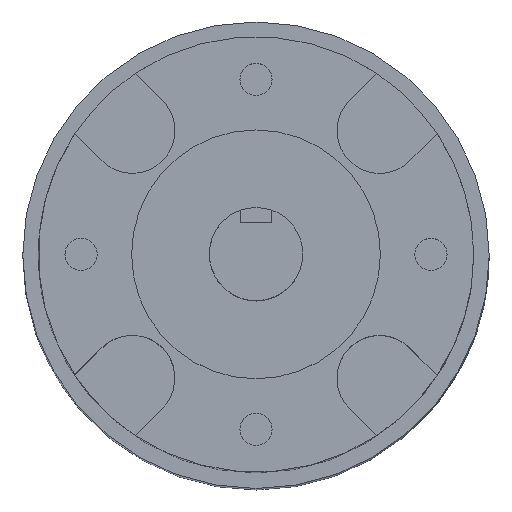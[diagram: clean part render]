
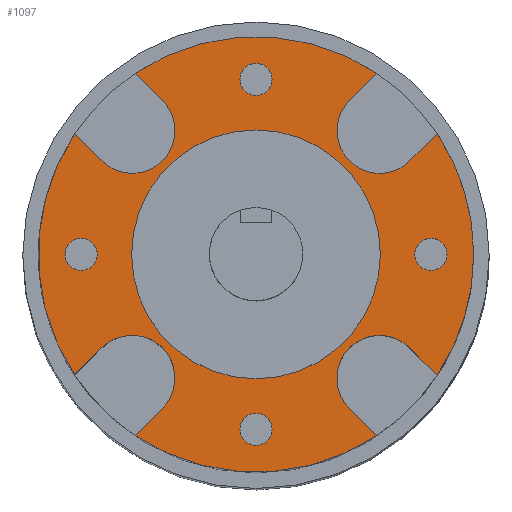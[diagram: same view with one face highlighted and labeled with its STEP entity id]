
A CAD part, top view. The second image highlights one B-rep face of the part: STEP entity #1097.
In plain terms, the highlighted planar face has unit normal (0, 0, 1).
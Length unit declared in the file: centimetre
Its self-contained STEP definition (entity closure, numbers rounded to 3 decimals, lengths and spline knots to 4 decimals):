
#281=VERTEX_POINT('',#5565);
#282=VERTEX_POINT('',#5567);
#284=VERTEX_POINT('',#5572);
#285=VERTEX_POINT('',#5577);
#289=VERTEX_POINT('',#5588);
#290=VERTEX_POINT('',#5590);
#292=VERTEX_POINT('',#5595);
#293=VERTEX_POINT('',#5600);
#297=VERTEX_POINT('',#5611);
#298=VERTEX_POINT('',#5613);
#300=VERTEX_POINT('',#5618);
#301=VERTEX_POINT('',#5623);
#305=VERTEX_POINT('',#5634);
#306=VERTEX_POINT('',#5636);
#308=VERTEX_POINT('',#5641);
#309=VERTEX_POINT('',#5646);
#311=VERTEX_POINT('',#5655);
#312=VERTEX_POINT('',#5657);
#313=VERTEX_POINT('',#5659);
#314=VERTEX_POINT('',#5661);
#315=VERTEX_POINT('',#5663);
#396=EDGE_CURVE('',#282,#281,#1878,.T.);
#400=EDGE_CURVE('',#284,#282,#1376,.T.);
#402=EDGE_CURVE('',#281,#285,#1378,.T.);
#407=EDGE_CURVE('',#290,#289,#1881,.T.);
#411=EDGE_CURVE('',#292,#290,#1384,.T.);
#413=EDGE_CURVE('',#289,#293,#1386,.T.);
#418=EDGE_CURVE('',#298,#297,#1884,.T.);
#422=EDGE_CURVE('',#300,#298,#1392,.T.);
#424=EDGE_CURVE('',#297,#301,#1394,.T.);
#429=EDGE_CURVE('',#306,#305,#1887,.T.);
#433=EDGE_CURVE('',#308,#306,#1400,.T.);
#435=EDGE_CURVE('',#305,#309,#1402,.T.);
#438=EDGE_CURVE('',#300,#285,#1889,.T.);
#439=EDGE_CURVE('',#292,#301,#1889,.T.);
#440=EDGE_CURVE('',#308,#293,#1889,.T.);
#441=EDGE_CURVE('',#284,#309,#1889,.T.);
#442=EDGE_CURVE('',#311,#311,#1890,.T.);
#443=EDGE_CURVE('',#312,#312,#1891,.T.);
#444=EDGE_CURVE('',#313,#313,#1892,.T.);
#445=EDGE_CURVE('',#314,#314,#1893,.T.);
#446=EDGE_CURVE('',#315,#315,#1894,.T.);
#619=ORIENTED_EDGE('',*,*,#400,.T.);
#620=ORIENTED_EDGE('',*,*,#396,.T.);
#621=ORIENTED_EDGE('',*,*,#402,.T.);
#622=ORIENTED_EDGE('',*,*,#438,.F.);
#623=ORIENTED_EDGE('',*,*,#422,.T.);
#624=ORIENTED_EDGE('',*,*,#418,.T.);
#625=ORIENTED_EDGE('',*,*,#424,.T.);
#626=ORIENTED_EDGE('',*,*,#439,.F.);
#627=ORIENTED_EDGE('',*,*,#411,.T.);
#628=ORIENTED_EDGE('',*,*,#407,.T.);
#629=ORIENTED_EDGE('',*,*,#413,.T.);
#630=ORIENTED_EDGE('',*,*,#440,.F.);
#631=ORIENTED_EDGE('',*,*,#433,.T.);
#632=ORIENTED_EDGE('',*,*,#429,.T.);
#633=ORIENTED_EDGE('',*,*,#435,.T.);
#634=ORIENTED_EDGE('',*,*,#441,.F.);
#635=ORIENTED_EDGE('',*,*,#442,.T.);
#636=ORIENTED_EDGE('',*,*,#443,.T.);
#637=ORIENTED_EDGE('',*,*,#444,.T.);
#638=ORIENTED_EDGE('',*,*,#445,.T.);
#639=ORIENTED_EDGE('',*,*,#446,.T.);
#893=EDGE_LOOP('',(#619,#620,#621,#622,#623,#624,#625,#626,#627,#628,#629,
#630,#631,#632,#633,#634));
#894=EDGE_LOOP('',(#635));
#895=EDGE_LOOP('',(#636));
#896=EDGE_LOOP('',(#637));
#897=EDGE_LOOP('',(#638));
#898=EDGE_LOOP('',(#639));
#995=FACE_BOUND('',#893,.T.);
#996=FACE_BOUND('',#894,.T.);
#997=FACE_BOUND('',#895,.T.);
#998=FACE_BOUND('',#896,.T.);
#999=FACE_BOUND('',#897,.T.);
#1000=FACE_BOUND('',#898,.T.);
#1097=ADVANCED_FACE('',(#995,#996,#997,#998,#999,#1000),#4196,.T.);
#1376=LINE('',#5574,#4074);
#1378=LINE('',#5579,#4076);
#1384=LINE('',#5597,#4082);
#1386=LINE('',#5602,#4084);
#1392=LINE('',#5620,#4090);
#1394=LINE('',#5625,#4092);
#1400=LINE('',#5643,#4098);
#1402=LINE('',#5648,#4100);
#1878=CIRCLE('',#3768,0.55);
#1881=CIRCLE('',#3775,0.55);
#1884=CIRCLE('',#3782,0.55);
#1887=CIRCLE('',#3789,0.55);
#1889=CIRCLE('',#3795,2.8);
#1890=CIRCLE('',#3796,1.6);
#1891=CIRCLE('',#3797,0.2067);
#1892=CIRCLE('',#3798,0.2067);
#1893=CIRCLE('',#3799,0.2067);
#1894=CIRCLE('',#3800,0.2067);
#3768=AXIS2_PLACEMENT_3D('',#5566,#4598,#4599);
#3775=AXIS2_PLACEMENT_3D('',#5589,#4617,#4618);
#3782=AXIS2_PLACEMENT_3D('',#5612,#4636,#4637);
#3789=AXIS2_PLACEMENT_3D('',#5635,#4655,#4656);
#3794=AXIS2_PLACEMENT_3D('',#5652,#4669,$);
#3795=AXIS2_PLACEMENT_3D('',#5653,#4670,#4671);
#3796=AXIS2_PLACEMENT_3D('',#5654,#4672,#4673);
#3797=AXIS2_PLACEMENT_3D('',#5656,#4674,#4675);
#3798=AXIS2_PLACEMENT_3D('',#5658,#4676,#4677);
#3799=AXIS2_PLACEMENT_3D('',#5660,#4678,#4679);
#3800=AXIS2_PLACEMENT_3D('',#5662,#4680,#4681);
#4074=VECTOR('',#4604,1.);
#4076=VECTOR('',#4607,1.);
#4082=VECTOR('',#4623,1.);
#4084=VECTOR('',#4626,1.);
#4090=VECTOR('',#4642,1.);
#4092=VECTOR('',#4645,1.);
#4098=VECTOR('',#4661,1.);
#4100=VECTOR('',#4664,1.);
#4196=PLANE('',#3794);
#4598=DIRECTION('',(0.,0.,-1.));
#4599=DIRECTION('',(0.55,0.,0.));
#4604=DIRECTION('',(0.707,-0.707,0.));
#4607=DIRECTION('',(-0.707,0.707,0.));
#4617=DIRECTION('',(0.,0.,-1.));
#4618=DIRECTION('',(0.55,0.,0.));
#4623=DIRECTION('',(-0.707,0.707,0.));
#4626=DIRECTION('',(0.707,-0.707,0.));
#4636=DIRECTION('',(0.,0.,-1.));
#4637=DIRECTION('',(0.55,0.,0.));
#4642=DIRECTION('',(0.707,0.707,0.));
#4645=DIRECTION('',(-0.707,-0.707,0.));
#4655=DIRECTION('',(0.,0.,-1.));
#4656=DIRECTION('',(0.55,0.,0.));
#4661=DIRECTION('',(-0.707,-0.707,0.));
#4664=DIRECTION('',(0.707,0.707,0.));
#4669=DIRECTION('',(0.,0.,1.));
#4670=DIRECTION('',(0.,0.,-1.));
#4671=DIRECTION('',(2.8,0.,0.));
#4672=DIRECTION('',(0.,0.,-1.));
#4673=DIRECTION('',(1.6,0.,0.));
#4674=DIRECTION('',(0.,0.,-1.));
#4675=DIRECTION('',(0.,0.207,0.));
#4676=DIRECTION('',(0.,0.,-1.));
#4677=DIRECTION('',(0.,0.207,0.));
#4678=DIRECTION('',(0.,0.,-1.));
#4679=DIRECTION('',(0.,0.207,0.));
#4680=DIRECTION('',(0.,0.,-1.));
#4681=DIRECTION('',(0.,0.207,0.));
#5565=CARTESIAN_POINT('',(-1.9807,1.2033,17.45));
#5566=CARTESIAN_POINT('',(-1.5918,1.5922,17.45));
#5567=CARTESIAN_POINT('',(-1.2029,1.9812,17.45));
#5572=CARTESIAN_POINT('',(-1.5522,2.3304,17.45));
#5574=CARTESIAN_POINT('',(-0.4943,1.2726,17.45));
#5577=CARTESIAN_POINT('',(-2.3301,1.5527,17.45));
#5579=CARTESIAN_POINT('',(-1.2722,0.4948,17.45));
#5588=CARTESIAN_POINT('',(1.9786,-1.2029,17.45));
#5589=CARTESIAN_POINT('',(1.5897,-1.5918,17.45));
#5590=CARTESIAN_POINT('',(1.2008,-1.9807,17.45));
#5595=CARTESIAN_POINT('',(1.5512,-2.3311,17.45));
#5597=CARTESIAN_POINT('',(0.6039,-1.3838,17.45));
#5600=CARTESIAN_POINT('',(2.3294,-1.5537,17.45));
#5602=CARTESIAN_POINT('',(1.2708,-0.495,17.45));
#5611=CARTESIAN_POINT('',(-1.2041,-1.9795,17.45));
#5612=CARTESIAN_POINT('',(-1.5931,-1.5905,17.45));
#5613=CARTESIAN_POINT('',(-1.982,-1.2016,17.45));
#5618=CARTESIAN_POINT('',(-2.3312,-1.5509,17.45));
#5620=CARTESIAN_POINT('',(-1.2735,-0.4932,17.45));
#5623=CARTESIAN_POINT('',(-1.5539,-2.3292,17.45));
#5625=CARTESIAN_POINT('',(-0.4958,-1.2711,17.45));
#5634=CARTESIAN_POINT('',(1.2021,1.9799,17.45));
#5635=CARTESIAN_POINT('',(1.591,1.591,17.45));
#5636=CARTESIAN_POINT('',(1.9799,1.2021,17.45));
#5641=CARTESIAN_POINT('',(2.3302,1.5524,17.45));
#5643=CARTESIAN_POINT('',(1.3775,0.5997,17.45));
#5646=CARTESIAN_POINT('',(1.5524,2.3302,17.45));
#5648=CARTESIAN_POINT('',(0.4941,1.2719,17.45));
#5652=CARTESIAN_POINT('',(0.,0.,17.45));
#5653=CARTESIAN_POINT('',(0.,0.,17.45));
#5654=CARTESIAN_POINT('',(0.,0.,17.45));
#5655=CARTESIAN_POINT('',(1.6,0.,17.45));
#5656=CARTESIAN_POINT('',(-0.0001,2.25,17.45));
#5657=CARTESIAN_POINT('',(-0.0001,2.4567,17.45));
#5658=CARTESIAN_POINT('',(2.25,-0.0003,17.45));
#5659=CARTESIAN_POINT('',(2.25,0.2064,17.45));
#5660=CARTESIAN_POINT('',(-0.0001,-2.25,17.45));
#5661=CARTESIAN_POINT('',(-0.0001,-2.0433,17.45));
#5662=CARTESIAN_POINT('',(-2.25,0.0001,17.45));
#5663=CARTESIAN_POINT('',(-2.25,0.2068,17.45));
